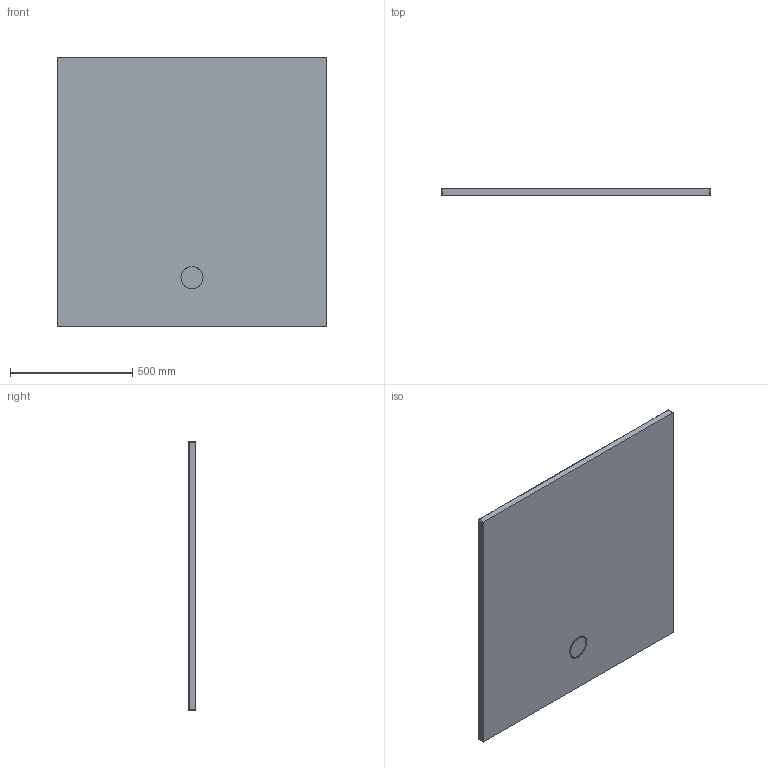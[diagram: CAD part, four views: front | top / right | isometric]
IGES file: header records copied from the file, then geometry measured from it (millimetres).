
Start section: SolidWorks IGES file using analytic representation for surfaces
Global section: file name: D:\Users\M.Szymanski\Desktop\B-M_Space\B_M_110x110x1,5.IGS; native system: SolidWorks 2011; preprocessor: SolidWorks 2011; author: M.Szymanski; date: 180216.073245; units: millimetre
Bounding box: 1100 x 30 x 1100 mm (x, y, z)
Surface area: 2564473.9 mm2 (no closed solid volume)
Topology: 0 solids, 0 shells, 61 faces, 735 edges, 732 vertices
Faces by surface type: bspline 39, revolution 22
